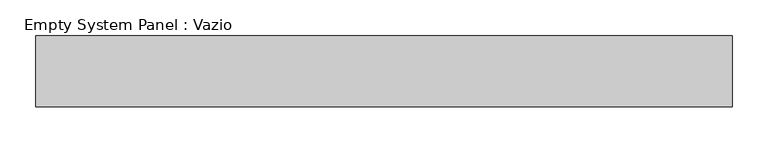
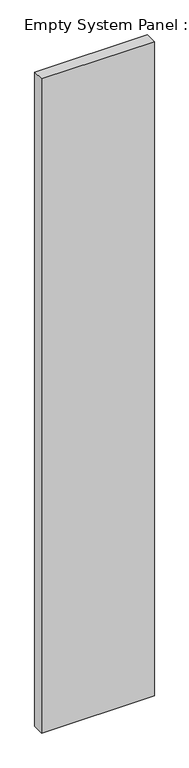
"""IFC4 building model written with IfcOpenShell, lengths in millimetres: plate geometry, Empty System Panel : Vazio."""

from ifc_helpers import new_model, si_unit, frame, origin, place, context, project, spatial, polyline, outline, extrude, source, transform, mapped, element, save


def empty_system_panel_vazio_dedfbf92(model_context):
    return source(origin(), model_context, "Body", "SweptSolid", [
        extrude(outline(polyline([(0.0, -490.0000002), (0.0, 490.0000002), (5999.7757458, 490.0000002), (5999.7757458, -489.8345904), (0.0, -490.0000002)])), frame((0.0, 50.0, 0.0), z_axis=(0.0, 1.0, 0.0), x_axis=(0.0, 0.0, 1.0)), (0.0, 0.0, 1.0), 100.0),
    ])


if __name__ == "__main__":
    model = new_model("IFC4")
    model_context = context("Model", 3, world=origin())
    ifc_project = project(units=[si_unit("LENGTHUNIT", "METRE", prefix="MILLI")], contexts=[model_context])
    site = spatial("IfcSite", under=ifc_project)
    building = spatial("IfcBuilding", under=site)
    placement = place(None, origin())
    empty_system_panel_vazio_shape = empty_system_panel_vazio_dedfbf92(model_context)
    element("IfcPlate", 1, ObjectType="Empty System Panel : Vazio", at=placement, inside=building, context=model_context, shape_type="MappedRepresentation", body=[
        mapped(empty_system_panel_vazio_shape, transform((0.0, 0.0, 0.0), x_axis=(1.0, 0.0, 0.0), y_axis=(0.0, 1.0, 0.0), z_axis=(0.0, 0.0, 1.0))),
    ])
    save(model, "model.ifc")
